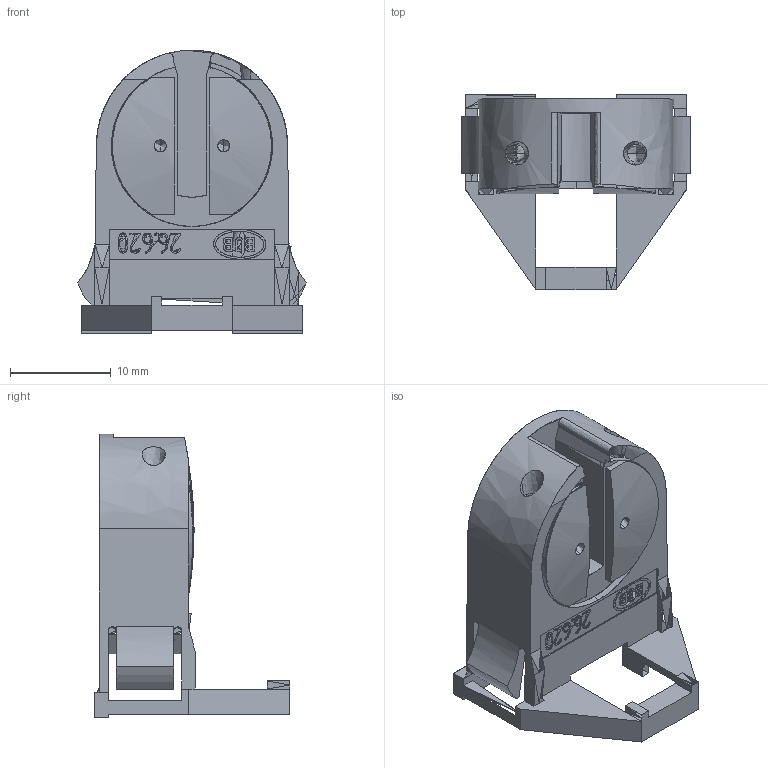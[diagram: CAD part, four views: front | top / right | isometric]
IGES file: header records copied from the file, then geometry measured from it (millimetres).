
Global section: file name: C:\Programme\CoreTechnologie\in\00A-20W-0A.igs; native system: CT CoreTechnologie 3D Evolution; preprocessor: 2005; author: assmuth; date: 060901.095408; units: millimetre
Bounding box: 22.69 x 19.4 x 28.14 mm (x, y, z)
Surface area: 3026.7 mm2 (no closed solid volume)
Topology: 0 solids, 0 shells, 318 faces, 1636 edges, 1582 vertices
Faces by surface type: bspline 318
